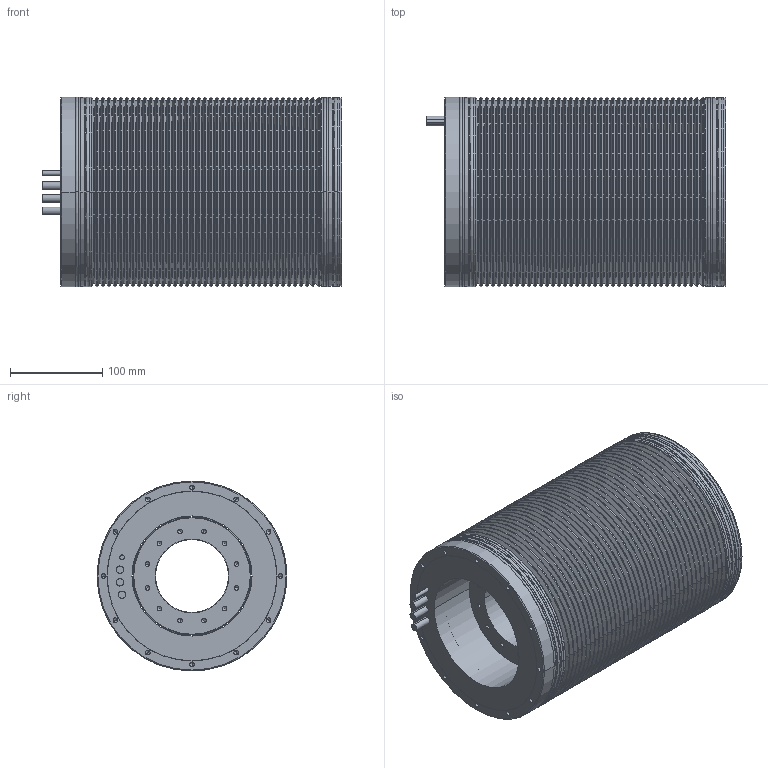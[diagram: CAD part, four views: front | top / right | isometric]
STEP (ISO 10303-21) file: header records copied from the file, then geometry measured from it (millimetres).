
FILE_DESCRIPTION((''),'2;1');
FILE_NAME('TK188-200','2017-10-30T',('stefanos'),(''),'CREO PARAMETRIC BY PTC INC, 2015480','CREO PARAMETRIC BY PTC INC, 2015480','');
FILE_SCHEMA(('CONFIG_CONTROL_DESIGN'));
Length unit declared in the file: millimetre
Products named in the file (1): TK188-200
Bounding box: 325 x 206 x 206 mm (x, y, z)
Volume: 7409118.5 mm3; surface area: 1252656.7 mm2
Topology: 9 solids, 9 shells, 613 faces, 1298 edges, 686 vertices
Faces by surface type: cylinder 296, cone 248, plane 37, torus 16, revolution 16
Entity records: 17092 total; most frequent: CARTESIAN_POINT 3965, DIRECTION 3054, ORIENTED_EDGE 2452, AXIS2_PLACEMENT_3D 1247, EDGE_CURVE 1226, VERTEX_POINT 686, EDGE_LOOP 686, CIRCLE 650
